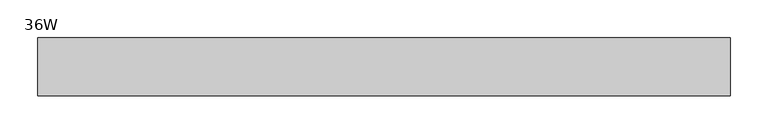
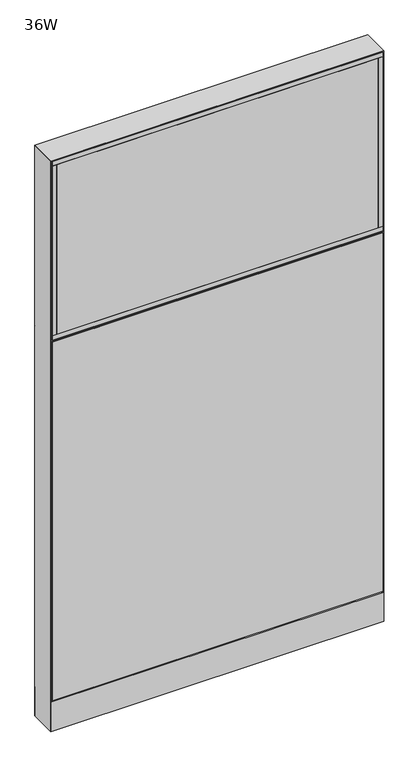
"""IFC4 building model written with IfcOpenShell, lengths in millimetres: furniture geometry, Steelcase - Montage - Frame - 65H - Enhanced Standard - Base Cavity : 36W."""

from ifc_helpers import new_model, si_unit, point, frame, frame_2d, origin, origin_with_axes, place, context, project, spatial, polyline, circle_curve, trimmed, segment, composite_curve, outline, extrude, faceted_brep, source, transform, mapped, element, save


def furniture_36w_00cd42e2(model_context):
    return source(origin(), model_context, "Body", "SolidModel", [
        faceted_brep([(-5.4e-06, 38.102627, 1136.6500027), (6.3499917, 31.7526299, 1142.9999997), (908.0500047, 31.7526299, 1142.9999997), (914.4, 38.1026253, 1136.6500044), (908.0500047, 31.7526299, 1130.3000003), (6.3499917, 31.7526299, 1130.3000003)], [[[0, 1, 2, 3]], [[3, 4, 5, 0]], [[1, 5, 4, 2]], [[0, 5, 1]], [[2, 4, 3]]]),
        extrude(outline(polyline([(898.525, 38.1000015), (898.525, 31.7500017), (15.875, 31.7500017), (15.875, 38.1000015), (898.525, 38.1000015)])), frame((0.0, 0.0, 1152.525), z_axis=(0.0, 0.0, 1.0), x_axis=(1.0, 0.0, 0.0)), (0.0, 0.0, 1.0), 492.125),
        extrude(outline(polyline([(898.525, -31.7499985), (898.525, -38.1000015), (15.875, -38.1000015), (15.875, -31.7499985), (898.525, -31.7499985)])), frame((0.0, 0.0, 1152.525), z_axis=(0.0, 0.0, 1.0), x_axis=(1.0, 0.0, 0.0)), (0.0, 0.0, 1.0), 492.125),
        extrude(outline(polyline([(911.225, -38.1000015), (898.525, -38.1000015), (898.525, 38.1000015), (911.225, 38.1000015), (911.225, -38.1000015)])), frame((0.0, 0.0, 1152.525), z_axis=(0.0, 0.0, 1.0), x_axis=(1.0, 0.0, 0.0)), (0.0, 0.0, 1.0), 492.125),
        extrude(outline(polyline([(15.875, -38.1000015), (3.175, -38.1000015), (3.175, 38.1000015), (15.875, 38.1000015), (15.875, -38.1000015)])), frame((0.0, 0.0, 1152.525), z_axis=(0.0, 0.0, 1.0), x_axis=(1.0, 0.0, 0.0)), (0.0, 0.0, 1.0), 492.125),
        extrude(outline(polyline([(911.225, -38.1000015), (3.175, -38.1000015), (3.175, 38.1000015), (911.225, 38.1000015), (911.225, -38.1000015)])), frame((0.0, 0.0, 1139.825), z_axis=(0.0, 0.0, 1.0), x_axis=(1.0, 0.0, 0.0)), (0.0, 0.0, 1.0), 12.7),
        extrude(outline(polyline([(911.225, -38.1000015), (3.175, -38.1000015), (3.175, 38.1000015), (911.225, 38.1000015), (911.225, -38.1000015)])), frame((0.0, 0.0, 1644.65), z_axis=(0.0, 0.0, 1.0), x_axis=(1.0, 0.0, 0.0)), (0.0, 0.0, 1.0), 12.7),
        extrude(outline(polyline([(3.175, 31.7500194), (3.175, 38.1000194), (911.225, 38.1000194), (911.225, 31.7500194), (3.175, 31.7500194)])), frame((0.0, 0.0, 92.075), z_axis=(0.0, 0.0, 1.0), x_axis=(1.0, 0.0, 0.0)), (0.0, 0.0, 1.0), 1041.4),
        faceted_brep([(0.0, -38.1026297, 1136.65), (914.4, -38.1026297, 1136.65), (908.0500047, -31.7526299, 1142.9999997), (6.3499917, -31.7526299, 1142.9999997), (6.3499917, -31.7526299, 1130.3000003), (908.0500047, -31.7526299, 1130.3000003)], [[[0, 1, 2, 3]], [[1, 0, 4, 5]], [[3, 2, 5, 4]], [[0, 3, 4]], [[2, 1, 5]]]),
        extrude(outline(polyline([(898.525, -38.1000015), (15.875, -38.1000015), (15.875, -31.7500017), (898.525, -31.7500017), (898.525, -38.1000015)])), frame((0.0, 0.0, 1152.525), z_axis=(0.0, 0.0, 1.0), x_axis=(1.0, 0.0, 0.0)), (0.0, 0.0, 1.0), 492.125),
        extrude(outline(polyline([(898.525, 31.7499985), (15.875, 31.7499985), (15.875, 38.1000015), (898.525, 38.1000015), (898.525, 31.7499985)])), frame((0.0, 0.0, 1152.525), z_axis=(0.0, 0.0, 1.0), x_axis=(1.0, 0.0, 0.0)), (0.0, 0.0, 1.0), 492.125),
        extrude(outline(polyline([(911.225, 38.1000015), (911.225, -38.1000015), (898.525, -38.1000015), (898.525, 38.1000015), (911.225, 38.1000015)])), frame((0.0, 0.0, 1152.525), z_axis=(0.0, 0.0, 1.0), x_axis=(1.0, 0.0, 0.0)), (0.0, 0.0, 1.0), 492.125),
        extrude(outline(polyline([(15.875, 38.1000015), (15.875, -38.1000015), (3.175, -38.1000015), (3.175, 38.1000015), (15.875, 38.1000015)])), frame((0.0, 0.0, 1152.525), z_axis=(0.0, 0.0, 1.0), x_axis=(1.0, 0.0, 0.0)), (0.0, 0.0, 1.0), 492.125),
        extrude(outline(polyline([(911.225, 38.1000015), (911.225, -38.1000015), (3.175, -38.1000015), (3.175, 38.1000015), (911.225, 38.1000015)])), frame((0.0, 0.0, 1139.825), z_axis=(0.0, 0.0, 1.0), x_axis=(1.0, 0.0, 0.0)), (0.0, 0.0, 1.0), 12.7),
        extrude(outline(polyline([(911.225, 38.1000015), (911.225, -38.1000015), (3.175, -38.1000015), (3.175, 38.1000015), (911.225, 38.1000015)])), frame((0.0, 0.0, 1644.65), z_axis=(0.0, 0.0, 1.0), x_axis=(1.0, 0.0, 0.0)), (0.0, 0.0, 1.0), 12.7),
        extrude(outline(polyline([(3.175, -31.7500194), (911.225, -31.7500194), (911.225, -38.1000194), (3.175, -38.1000194), (3.175, -31.7500194)])), frame((0.0, 0.0, 92.075), z_axis=(0.0, 0.0, 1.0), x_axis=(1.0, 0.0, 0.0)), (0.0, 0.0, 1.0), 1041.4),
        extrude(outline(polyline([(6.350003, -31.7499985), (908.049997, -31.7499985), (914.4, -38.1000015), (0.0, -38.1000015), (6.350003, -31.7499985)])), frame((0.0, 0.0, 4.064), z_axis=(0.0, 0.0, 1.0), x_axis=(1.0, 0.0, 0.0)), (0.0, 0.0, 1.0), 84.835997),
        extrude(outline(polyline([(6.3500002, 31.7500017), (0.0, 38.1000015), (914.4, 38.1000015), (908.0500002, 31.7500017), (6.3500002, 31.7500017)])), frame((0.0, 0.0, 4.064), z_axis=(0.0, 0.0, 1.0), x_axis=(1.0, 0.0, 0.0)), (0.0, 0.0, 1.0), 84.835997),
        faceted_brep([(914.4, -38.1000015, 1660.525), (0.0, -38.1000015, 1660.525), (6.3500484, -31.749953, 1654.1749516), (908.0499516, -31.749953, 1654.1749516), (6.3500484, 31.749953, 1654.1749516), (908.0499516, 31.749953, 1654.1749516), (0.0, 38.1000015, 1660.525), (914.4, 38.1000015, 1660.525)], [[[0, 1, 2, 3]], [[3, 2, 4, 5]], [[6, 7, 5, 4]], [[1, 0, 7, 6]], [[2, 1, 6, 4]], [[0, 3, 5, 7]]]),
        extrude(outline(composite_curve([segment(trimmed(circle_curve(frame_2d((44.45, 0.0)), 15.24), [point((29.21, 0.0))], [point((59.69, 0.0))], False, "CARTESIAN"), True, "CONTINUOUS"), segment(trimmed(circle_curve(frame_2d((44.45, 0.0)), 15.24), [point((59.69, 0.0))], [point((29.21, 0.0))], False, "CARTESIAN"), True, "CONTINUOUS")], self_intersect=False)), origin_with_axes(), (0.0, 0.0, 1.0), 4.064),
        extrude(outline(composite_curve([segment(trimmed(circle_curve(frame_2d((869.95, 0.0)), 15.24), [point((854.71, 0.0))], [point((885.19, 0.0))], False, "CARTESIAN"), True, "CONTINUOUS"), segment(trimmed(circle_curve(frame_2d((869.95, 0.0)), 15.24), [point((885.19, 0.0))], [point((854.71, 0.0))], False, "CARTESIAN"), True, "CONTINUOUS")], self_intersect=False)), origin_with_axes(), (0.0, 0.0, 1.0), 4.064),
        faceted_brep([(914.4, -38.1000106, 4.064), (914.4, 38.1000015, 4.064), (914.4, 38.1000015, 1660.525), (914.4, -38.1000106, 1660.5249637), (0.0, 38.1000015, 4.064), (0.0, -38.1000015, 4.064), (0.0, -38.1000015, 1660.525), (0.0, 38.1000015, 1660.525), (908.0499879, 31.7500017, 606.425), (6.35, 31.7500017, 606.425), (6.3499998, 31.7500017, 619.125), (908.0499879, 31.7500017, 619.125), (6.35, -31.7499985, 619.125), (908.0499879, -31.7499985, 619.125), (6.350003, -31.7499985, 606.425), (908.0499879, -31.7499985, 606.425), (908.0499879, 31.7500017, 1130.3), (6.35, 31.7500017, 1130.3), (6.3499998, 31.7500017, 1143.0), (908.0499879, 31.7500017, 1143.0), (6.35, -31.7499985, 1143.0), (908.0499879, -31.7499985, 1143.0), (6.350003, -31.7499985, 1130.3), (908.0499879, -31.7499985, 1130.3), (6.35, 31.7500015, 4.064), (6.35, -31.7500015, 4.064), (908.0499879, 31.7499894, 4.064), (908.0499879, -31.7499985, 4.064), (6.35, 31.7500015, 1654.175), (6.35, -31.7500015, 1654.175), (908.0499879, -31.7499985, 1654.1749516), (908.0499879, 31.7499895, 1654.1749516)], [[[0, 1, 2, 3]], [[4, 5, 6, 7]], [[8, 9, 10, 11]], [[11, 10, 12, 13]], [[13, 12, 14, 15]], [[9, 8, 15, 14]], [[16, 17, 18, 19]], [[19, 18, 20, 21]], [[21, 20, 22, 23]], [[17, 16, 23, 22]], [[24, 25, 5, 4]], [[26, 1, 0, 27]], [[24, 4, 7, 28, 18, 17, 10, 9]], [[5, 25, 14, 12, 22, 20, 29, 6]], [[25, 24, 9, 14]], [[10, 17, 22, 12]], [[20, 18, 28, 29]], [[26, 27, 15, 8]], [[16, 11, 13, 23]], [[19, 21, 30, 31]], [[27, 0, 3, 30, 21, 23, 13, 15]], [[1, 26, 8, 11, 16, 19, 31, 2]], [[7, 6, 29, 28]], [[3, 2, 31, 30]]]),
    ])


if __name__ == "__main__":
    model = new_model("IFC4")
    model_context = context("Model", 3, world=origin())
    ifc_project = project(units=[si_unit("LENGTHUNIT", "METRE", prefix="MILLI")], contexts=[model_context])
    site = spatial("IfcSite", under=ifc_project)
    building = spatial("IfcBuilding", under=site)
    placement = place(None, origin())
    furniture_36w_shape = furniture_36w_00cd42e2(model_context)
    element("IfcFurniture", 1, ObjectType="Steelcase - Montage - Frame - 65H - Enhanced Standard - Base Cavity : 36W", at=placement, inside=building, context=model_context, shape_type="MappedRepresentation", body=[
        mapped(furniture_36w_shape, transform((0.0, 0.0, 0.0), x_axis=(1.0, 0.0, 0.0), y_axis=(0.0, 1.0, 0.0), z_axis=(0.0, 0.0, 1.0))),
    ])
    save(model, "model.ifc")
